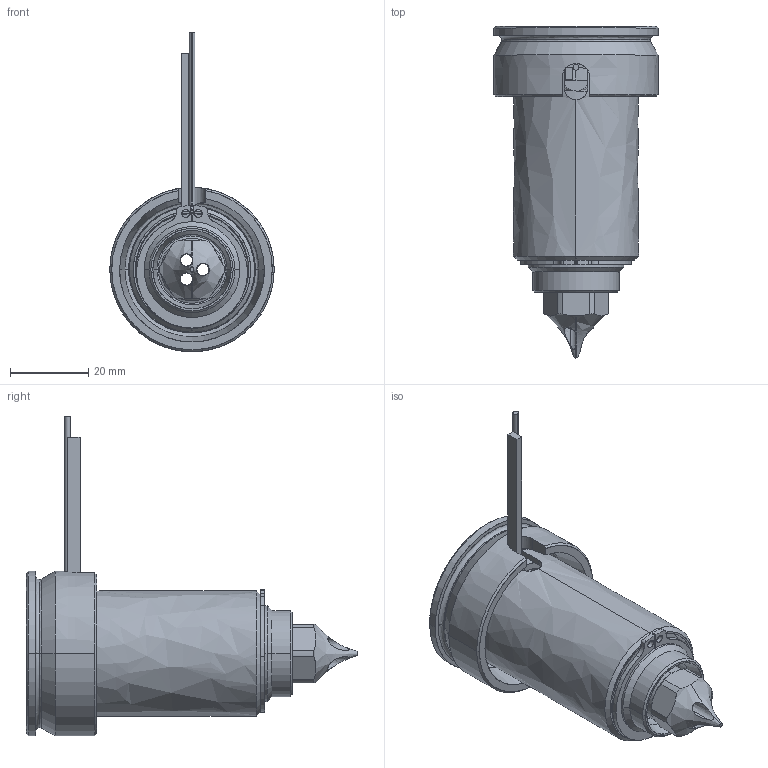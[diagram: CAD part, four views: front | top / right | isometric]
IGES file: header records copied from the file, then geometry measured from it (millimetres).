
Start section: SolidWorks IGES file using analytic representation for surfaces
Global section: file name: C:\Users\luca.EMPAD\Desktop\TEM\UGDL3612-S-A-1 [Øf=1.0 ØC=10].IGS; native system: SolidWorks 2012; preprocessor: SolidWorks 2012; author: luca; date: 120330.160514; units: millimetre
Bounding box: 42 x 84.8 x 81.65 mm (x, y, z)
Surface area: 27128.5 mm2 (no closed solid volume)
Topology: 0 solids, 0 shells, 130 faces, 2270 edges, 2270 vertices
Faces by surface type: revolution 81, bspline 49
